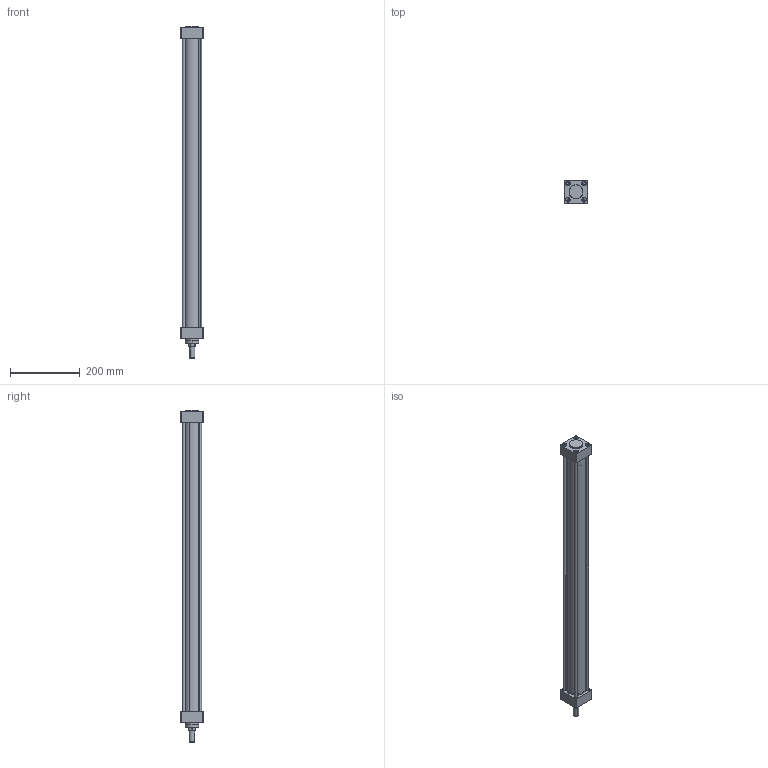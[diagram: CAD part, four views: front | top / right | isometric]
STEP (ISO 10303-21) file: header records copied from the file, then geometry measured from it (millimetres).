
FILE_DESCRIPTION (( 'STEP AP203' ), '1' );
FILE_NAME ('SC-CR-S-50X800CYLINDER.STEP', '2016-10-27T11:22:34', ( 'user' ), ( '' ), 'SwSTEP 2.0', 'SolidWorks 2013', '' );
FILE_SCHEMA (( 'CONFIG_CONTROL_DESIGN' ));
Length unit declared in the file: millimetre
Products named in the file (8): SC-CR-S 50x800 BORU; SC-CR-S 50x800 Piston Mili; SC-CR-S 50x800 SAPLAMA; SC-CR-S-50X800CYLINDER; SC-CR-S 50 ARKA KAPAK ; SC-CR-S 50 烰 KAPAK ; SC-CR-S 50 ORTA PÝSTON ; SC-CR-S 50 CIVATA
Assembly tree (17 placements, depth 2):
  SC-CR-S-50X800CYLINDER
    SC-CR-S 50 ARKA KAPAK 
    SC-CR-S 50 烰 KAPAK 
    SC-CR-S 50 ORTA PÝSTON 
    SC-CR-S 50 CIVATA  x8
    SC-CR-S 50x800 BORU
    SC-CR-S 50x800 Piston Mili
    SC-CR-S 50x800 SAPLAMA  x4
Bounding box: 65 x 65 x 954.2 mm (x, y, z)
Volume: 990825 mm3; surface area: 499805.5 mm2
Topology: 18 solids, 18 shells, 381 faces, 830 edges, 519 vertices
Faces by surface type: cylinder 148, plane 135, cone 82, torus 16
Entity records: 8157 total; most frequent: CARTESIAN_POINT 1359, DIRECTION 1335, ORIENTED_EDGE 1068, AXIS2_PLACEMENT_3D 555, EDGE_CURVE 534, VERTEX_POINT 331, EDGE_LOOP 301, CIRCLE 291
